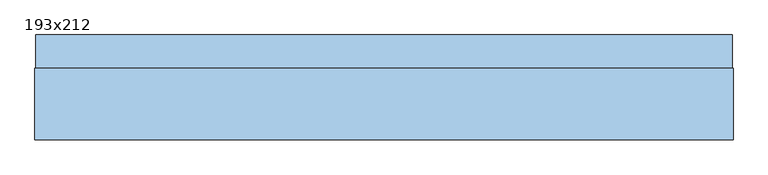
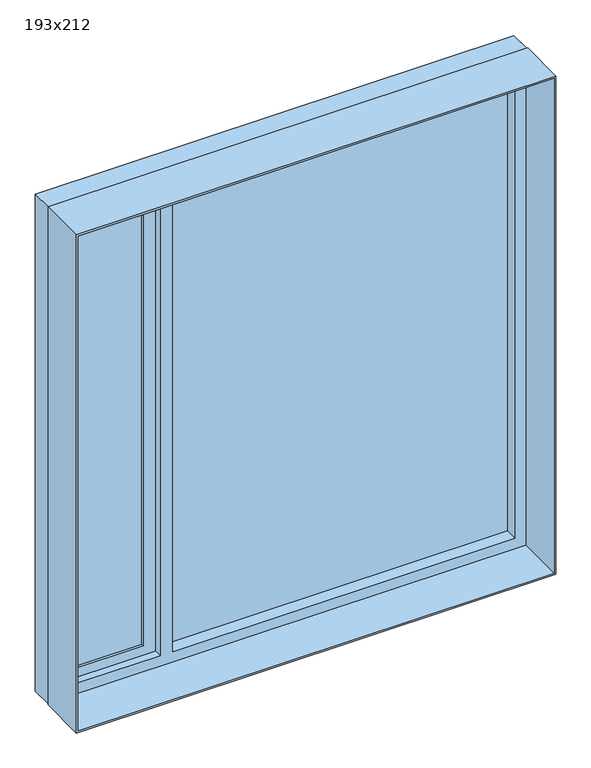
"""IFC4 building model written with IfcOpenShell, lengths in millimetres: window geometry, Vindu 2 felt med åpning side : 193x212."""

from ifc_helpers import new_model, si_unit, frame, origin, place, context, project, spatial, polyline, outline, extrude, source, transform, mapped, element, save


def window_193x212_1140f226(model_context):
    return source(origin(), model_context, "Body", "SweptSolid", [
        extrude(outline(polyline([(-507.3982693, 95.0), (872.6017307, 95.0), (872.6017307, 75.0), (-507.3982693, 75.0), (-507.3982693, 95.0)])), frame((0.0, 0.0, 852.0), z_axis=(0.0, 0.0, 1.0), x_axis=(1.0, 0.0, 0.0)), (0.0, 0.0, 1.0), 2020.0),
        extrude(outline(polyline([(2872.0, -557.3982693), (2872.0, -957.3982693), (852.0, -957.3982693), (852.0, -557.3982693), (2872.0, -557.3982693)]), holes=[polyline([(892.0, -917.3982693), (2832.0, -917.3982693), (2832.0, -607.3982693), (892.0, -607.3982693), (892.0, -917.3982693)])]), frame((0.0, 55.0, 0.0), z_axis=(0.0, 1.0, 0.0), x_axis=(0.0, 0.0, 1.0)), (0.0, 0.0, 1.0), 40.0),
        extrude(outline(polyline([(800.0, 924.6017307), (2924.0, 924.6017307), (2924.0, -1009.3982693), (800.0, -1009.3982693), (800.0, 924.6017307)]), holes=[polyline([(807.0, 917.6017307), (807.0, -1002.3982693), (2917.0, -1002.3982693), (2917.0, 917.6017307), (807.0, 917.6017307)])]), frame((0.0, -175.0, 0.0), z_axis=(0.0, 1.0, 0.0), x_axis=(0.0, 0.0, 1.0)), (0.0, 0.0, 1.0), 198.0),
        extrude(outline(polyline([(-917.3982693, 85.0), (-607.3982693, 85.0), (-607.3982693, 65.0), (-917.3982693, 65.0), (-917.3982693, 85.0)])), frame((0.0, 0.0, 892.0), z_axis=(0.0, 0.0, 1.0), x_axis=(1.0, 0.0, 0.0)), (0.0, 0.0, 1.0), 1940.0),
        extrude(outline(polyline([(2922.0, -1007.3982693), (802.0, -1007.3982693), (802.0, 922.6017307), (2922.0, 922.6017307), (2922.0, -1007.3982693)]), holes=[polyline([(2872.0, -557.3982693), (852.0, -557.3982693), (852.0, -957.3982693), (2872.0, -957.3982693), (2872.0, -557.3982693)]), polyline([(2872.0, -507.3982693), (2872.0, 872.6017307), (852.0, 872.6017307), (852.0, -507.3982693), (2872.0, -507.3982693)])]), frame((0.0, 23.0, 0.0), z_axis=(0.0, 1.0, 0.0), x_axis=(0.0, 0.0, 1.0)), (0.0, 0.0, 1.0), 92.0),
    ])


if __name__ == "__main__":
    model = new_model("IFC4")
    model_context = context("Model", 3, world=origin())
    ifc_project = project(units=[si_unit("LENGTHUNIT", "METRE", prefix="MILLI")], contexts=[model_context])
    site = spatial("IfcSite", under=ifc_project)
    building = spatial("IfcBuilding", under=site)
    placement = place(None, origin())
    window_193x212_shape = window_193x212_1140f226(model_context)
    element("IfcWindow", 1, ObjectType="Vindu 2 felt med åpning side : 193x212", at=placement, inside=building, context=model_context, shape_type="MappedRepresentation", body=[
        mapped(window_193x212_shape, transform((0.0, 0.0, 0.0), x_axis=(1.0, 0.0, 0.0), y_axis=(0.0, 1.0, 0.0), z_axis=(0.0, 0.0, 1.0))),
    ])
    save(model, "model.ifc")
